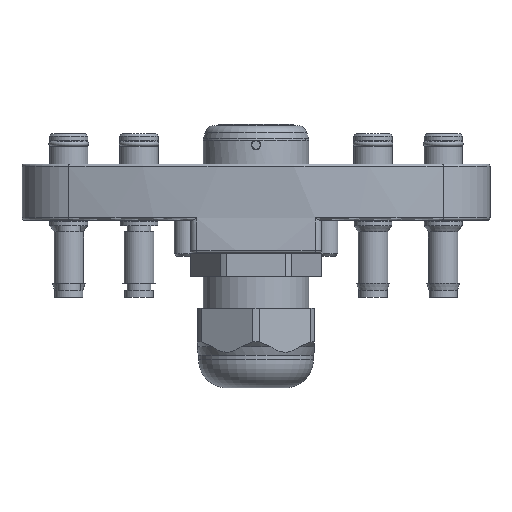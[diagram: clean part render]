
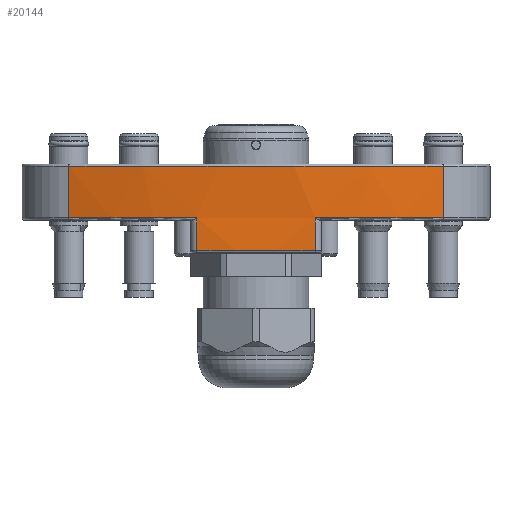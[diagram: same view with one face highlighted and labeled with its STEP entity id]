
A CAD part, left-side view. The second image highlights one B-rep face of the part: STEP entity #20144.
In plain terms, the highlighted cylindrical face has radius 140 mm (diameter 280 mm), a partial arc.
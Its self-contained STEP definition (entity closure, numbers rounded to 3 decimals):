
#1648=CYLINDRICAL_SURFACE('',#21884,140.);
#2562=FACE_OUTER_BOUND('',#3805,.T.);
#3805=EDGE_LOOP('',(#16697,#16698,#16699,#16700,#16701,#16702,#16703,#16704));
#5242=LINE('',#35637,#6529);
#5243=LINE('',#35641,#6530);
#5244=LINE('',#35645,#6531);
#5245=LINE('',#35649,#6532);
#6529=VECTOR('',#26375,10.);
#6530=VECTOR('',#26380,10.);
#6531=VECTOR('',#26383,10.);
#6532=VECTOR('',#26386,10.);
#7520=CIRCLE('',#21847,140.);
#7539=CIRCLE('',#21885,140.);
#7540=CIRCLE('',#21886,140.);
#7541=CIRCLE('',#21887,140.);
#9493=VERTEX_POINT('',#35545);
#9495=VERTEX_POINT('',#35551);
#9518=VERTEX_POINT('',#35636);
#9519=VERTEX_POINT('',#35640);
#9520=VERTEX_POINT('',#35642);
#9521=VERTEX_POINT('',#35644);
#9522=VERTEX_POINT('',#35646);
#9523=VERTEX_POINT('',#35648);
#12143=EDGE_CURVE('',#9495,#9493,#7520,.T.);
#12187=EDGE_CURVE('',#9518,#9493,#5242,.T.);
#12189=EDGE_CURVE('',#9519,#9495,#5243,.T.);
#12190=EDGE_CURVE('',#9520,#9519,#7539,.T.);
#12191=EDGE_CURVE('',#9520,#9521,#5244,.T.);
#12192=EDGE_CURVE('',#9522,#9521,#7540,.T.);
#12193=EDGE_CURVE('',#9523,#9522,#5245,.T.);
#12194=EDGE_CURVE('',#9518,#9523,#7541,.T.);
#16697=ORIENTED_EDGE('',*,*,#12143,.F.);
#16698=ORIENTED_EDGE('',*,*,#12189,.F.);
#16699=ORIENTED_EDGE('',*,*,#12190,.F.);
#16700=ORIENTED_EDGE('',*,*,#12191,.T.);
#16701=ORIENTED_EDGE('',*,*,#12192,.F.);
#16702=ORIENTED_EDGE('',*,*,#12193,.F.);
#16703=ORIENTED_EDGE('',*,*,#12194,.F.);
#16704=ORIENTED_EDGE('',*,*,#12187,.T.);
#20144=ADVANCED_FACE('',(#2562),#1648,.T.);
#21847=AXIS2_PLACEMENT_3D('',#35553,#26278,#26279);
#21884=AXIS2_PLACEMENT_3D('',#35639,#26378,#26379);
#21885=AXIS2_PLACEMENT_3D('',#35643,#26381,#26382);
#21886=AXIS2_PLACEMENT_3D('',#35647,#26384,#26385);
#21887=AXIS2_PLACEMENT_3D('',#35650,#26387,#26388);
#26278=DIRECTION('center_axis',(0.,0.,
1.));
#26279=DIRECTION('ref_axis',(-1.,0.,0.));
#26375=DIRECTION('',(0.,0.,1.));
#26378=DIRECTION('center_axis',(0.,0.,
1.));
#26379=DIRECTION('ref_axis',(-0.958,0.286,0.));
#26380=DIRECTION('',(0.,0.,1.));
#26381=DIRECTION('center_axis',(0.,0.,
-1.));
#26382=DIRECTION('ref_axis',(-0.982,0.189,0.));
#26383=DIRECTION('',(0.,0.,-1.));
#26384=DIRECTION('center_axis',(0.,0.,
-1.));
#26385=DIRECTION('ref_axis',(-1.,0.,0.));
#26386=DIRECTION('',(0.,0.,-1.));
#26387=DIRECTION('center_axis',(0.,0.,
-1.));
#26388=DIRECTION('ref_axis',(-0.982,-0.189,0.));
#35545=CARTESIAN_POINT('',(21.27,-178.988,41.006));
#35551=CARTESIAN_POINT('',(21.27,-98.988,41.006));
#35553=CARTESIAN_POINT('Origin',(155.434,-138.988,41.006));
#35636=CARTESIAN_POINT('',(21.27,-178.988,30.006));
#35637=CARTESIAN_POINT('',(21.27,-178.988,14.506));
#35639=CARTESIAN_POINT('Origin',(155.434,-138.988,14.506));
#35640=CARTESIAN_POINT('',(21.27,-98.988,30.006));
#35641=CARTESIAN_POINT('',(21.27,-98.988,14.506));
#35642=CARTESIAN_POINT('',(16.005,-126.352,30.006));
#35643=CARTESIAN_POINT('Origin',(155.434,-138.988,30.006));
#35644=CARTESIAN_POINT('',(16.005,-126.352,23.006));
#35645=CARTESIAN_POINT('',(16.005,-126.352,14.506));
#35646=CARTESIAN_POINT('',(16.005,-151.623,23.006));
#35647=CARTESIAN_POINT('Origin',(155.434,-138.988,23.006));
#35648=CARTESIAN_POINT('',(16.005,-151.623,30.006));
#35649=CARTESIAN_POINT('',(16.005,-151.623,14.506));
#35650=CARTESIAN_POINT('Origin',(155.434,-138.988,30.006));
